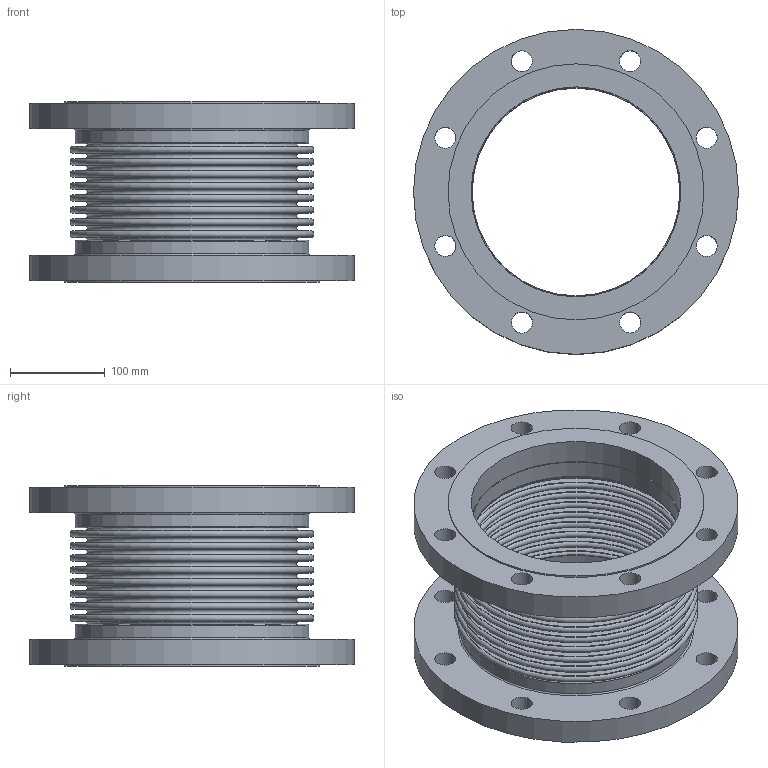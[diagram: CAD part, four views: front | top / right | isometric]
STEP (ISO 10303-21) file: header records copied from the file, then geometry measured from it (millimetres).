
FILE_DESCRIPTION(/* description */ ('EXPANSION JOINT,SINGLE, FLANGED ENDS,8 INCH NOMINAL','CAx-IF Rec.Pracs.---Representation and Presentation of Product Manufacturing Information (PMI)---4.0---2014-10-13'),/* implementation_level */ '2;1');
FILE_NAME(/* name */ 'US-08-8-85S-FLANGED ENDS.stp',/* time_stamp */ '2026-07-31T18:03:13-05:00',/* author */ ('Guadalupe'),/* organization */ (''),/* preprocessor_version */ 'ST-DEVELOPER v20.1',/* originating_system */ 'Autodesk Inventor 2026',/* authorisation */ '');
FILE_SCHEMA (('AP242_MANAGED_MODEL_BASED_3D_ENGINEERING_MIM_LF { 1 0 10303 442 2 1 4 }'));
Length unit declared in the file: inch
Products named in the file (3): 08-85S; 08-85S-02; 08-85S-01
Assembly tree (3 placements, depth 2):
  08-85S
    08-85S-02  x2
    08-85S-01
Bounding box: 342.9 x 342.9 x 190.5 mm (x, y, z)
Volume: 3297467.7 mm3; surface area: 958459.6 mm2
Topology: 5 solids, 5 shells, 112 faces, 198 edges, 132 vertices
Faces by surface type: plane 46, torus 38, cylinder 28
Full cylindrical faces by diameter (mm): 22.225 x16, 219.075 x2, 220.599 x2, 221.488 x2, 246.126 x2, 270.002 x2, 342.9 x2
Entity records: 2558 total; most frequent: DIRECTION 522, CARTESIAN_POINT 377, ORIENTED_EDGE 312, AXIS2_PLACEMENT_3D 253, EDGE_CURVE 156, EDGE_LOOP 152, CIRCLE 140, VERTEX_POINT 104
